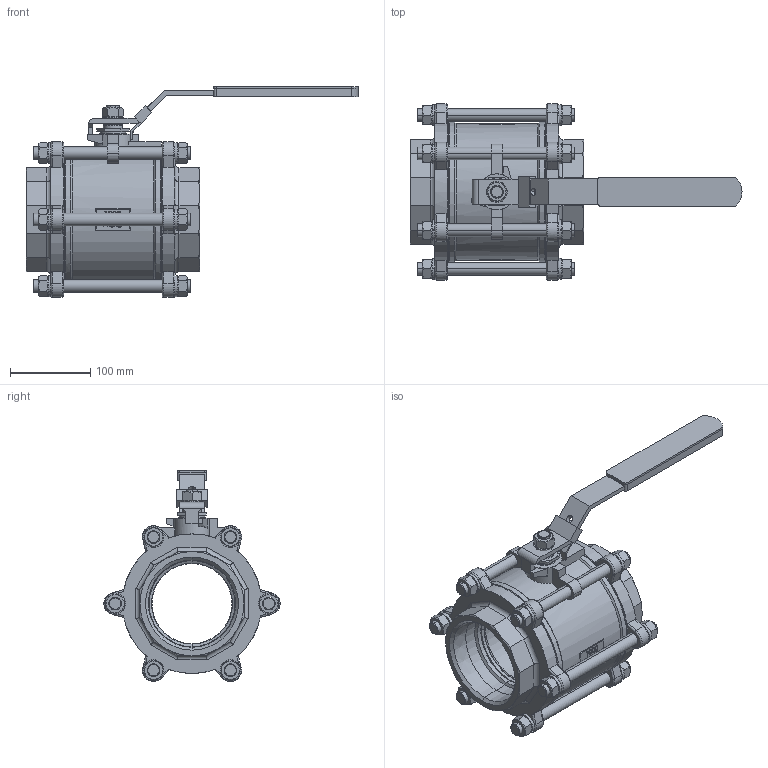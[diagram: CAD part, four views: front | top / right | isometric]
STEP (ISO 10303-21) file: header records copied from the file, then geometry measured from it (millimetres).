
FILE_DESCRIPTION(('Open CASCADE Model'),'2;1');
FILE_NAME('Open CASCADE Shape Model','2022-01-13T09:27:13',('Author'),( 'Open CASCADE'),'Open CASCADE STEP processor 7.3','Open CASCADE 7.3' ,'Unknown');
FILE_SCHEMA(('AUTOMOTIVE_DESIGN { 1 0 10303 214 1 1 1 1 }'));
Length unit declared in the file: millimetre
Products named in the file (1201): Open CASCADE STEP translator 7.3 1; Open CASCADE STEP translator 7.3 1.1; Open CASCADE STEP translator 7.3 1.2; Open CASCADE STEP translator 7.3 1.3; Open CASCADE STEP translator 7.3 1.4; Open CASCADE STEP translator 7.3 1.5; Open CASCADE STEP translator 7.3 1.6; Open CASCADE STEP translator 7.3 1.7; Open CASCADE STEP translator 7.3 1.8; Open CASCADE STEP translator 7.3 1.9; Open CASCADE STEP translator 7.3 1.10; Open CASCADE STEP translator 7.3 1.11; Open CASCADE STEP translator 7.3 1.12; Open CASCADE STEP translator 7.3 1.13; Open CASCADE STEP translator 7.3 1.14; Open CASCADE STEP translator 7.3 1.15; Open CASCADE STEP translator 7.3 1.16; Open CASCADE STEP translator 7.3 1.17; Open CASCADE STEP translator 7.3 1.18; Open CASCADE STEP translator 7.3 1.19; Open CASCADE STEP translator 7.3 1.20; Open CASCADE STEP translator 7.3 1.21; Open CASCADE STEP translator 7.3 1.22; Open CASCADE STEP translator 7.3 1.23; Open CASCADE STEP translator 7.3 1.24; Open CASCADE STEP translator 7.3 1.25; Open CASCADE STEP translator 7.3 1.26; Open CASCADE STEP translator 7.3 1.27; Open CASCADE STEP translator 7.3 1.28; Open CASCADE STEP translator 7.3 1.29; Open CASCADE STEP translator 7.3 1.30; Open CASCADE STEP translator 7.3 1.31; Open CASCADE STEP translator 7.3 1.32; Open CASCADE STEP translator 7.3 1.33; Open CASCADE STEP translator 7.3 1.34; Open CASCADE STEP translator 7.3 1.35; Open CASCADE STEP translator 7.3 1.36; Open CASCADE STEP translator 7.3 1.37; Open CASCADE STEP translator 7.3 1.38; Open CASCADE STEP translator 7.3 1.39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
Assembly tree (1200 placements, depth 2):
  Open CASCADE STEP translator 7.3 1
    Open CASCADE STEP translator 7.3 1.1
    Open CASCADE STEP translator 7.3 1.2
    Open CASCADE STEP translator 7.3 1.3
    Open CASCADE STEP translator 7.3 1.4
    Open CASCADE STEP translator 7.3 1.5
    Open CASCADE STEP translator 7.3 1.6
    Open CASCADE STEP translator 7.3 1.7
    Open CASCADE STEP translator 7.3 1.8
    Open CASCADE STEP translator 7.3 1.9
    Open CASCADE STEP translator 7.3 1.10
    Open CASCADE STEP translator 7.3 1.11
    Open CASCADE STEP translator 7.3 1.12
    Open CASCADE STEP translator 7.3 1.13
    Open CASCADE STEP translator 7.3 1.14
    Open CASCADE STEP translator 7.3 1.15
    Open CASCADE STEP translator 7.3 1.16
    Open CASCADE STEP translator 7.3 1.17
    Open CASCADE STEP translator 7.3 1.18
    Open CASCADE STEP translator 7.3 1.19
    Open CASCADE STEP translator 7.3 1.20
    Open CASCADE STEP translator 7.3 1.21
    Open CASCADE STEP translator 7.3 1.22
    Open CASCADE STEP translator 7.3 1.23
    Open CASCADE STEP translator 7.3 1.24
    Open CASCADE STEP translator 7.3 1.25
    Open CASCADE STEP translator 7.3 1.26
    Open CASCADE STEP translator 7.3 1.27
    Open CASCADE STEP translator 7.3 1.28
    Open CASCADE STEP translator 7.3 1.29
    Open CASCADE STEP translator 7.3 1.30
    Open CASCADE STEP translator 7.3 1.31
    Open CASCADE STEP translator 7.3 1.32
    Open CASCADE STEP translator 7.3 1.33
    Open CASCADE STEP translator 7.3 1.34
    Open CASCADE STEP translator 7.3 1.35
    Open CASCADE STEP translator 7.3 1.36
    Open CASCADE STEP translator 7.3 1.37
    Open CASCADE STEP translator 7.3 1.38
    Open CASCADE STEP translator 7.3 1.39
    Open CASCADE STEP translator 7.3 1.40
    Open CASCADE STEP translator 7.3 1.41
    Open CASCADE STEP translator 7.3 1.42
    Open CASCADE STEP translator 7.3 1.43
    Open CASCADE STEP translator 7.3 1.44
    Open CASCADE STEP translator 7.3 1.45
    Open CASCADE STEP translator 7.3 1.46
    Open CASCADE STEP translator 7.3 1.47
    Open CASCADE STEP translator 7.3 1.48
    Open CASCADE STEP translator 7.3 1.49
    Open CASCADE STEP translator 7.3 1.50
    Open CASCADE STEP translator 7.3 1.51
    Open CASCADE STEP translator 7.3 1.52
    Open CASCADE STEP translator 7.3 1.53
    Open CASCADE STEP translator 7.3 1.54
    Open CASCADE STEP translator 7.3 1.55
    Open CASCADE STEP translator 7.3 1.56
    Open CASCADE STEP translator 7.3 1.57
    Open CASCADE STEP translator 7.3 1.58
    Open CASCADE STEP translator 7.3 1.59
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Bounding box: 414.5 x 220 x 263.25 mm (x, y, z)
Volume: 16706.7 mm3; surface area: 653800.5 mm2
Topology: 1 solids, 1200 shells, 1207 faces, 5927 edges, 5920 vertices
Faces by surface type: plane 487, cylinder 398, cone 185, bspline 137
Entity records: 172392 total; most frequent: CARTESIAN_POINT 74842, DIRECTION 15356, LINE 6366, VECTOR 6366, ORIENTED_EDGE 5943, PCURVE 5943, DEFINITIONAL_REPRESENTATION 5943, EDGE_CURVE 5925
